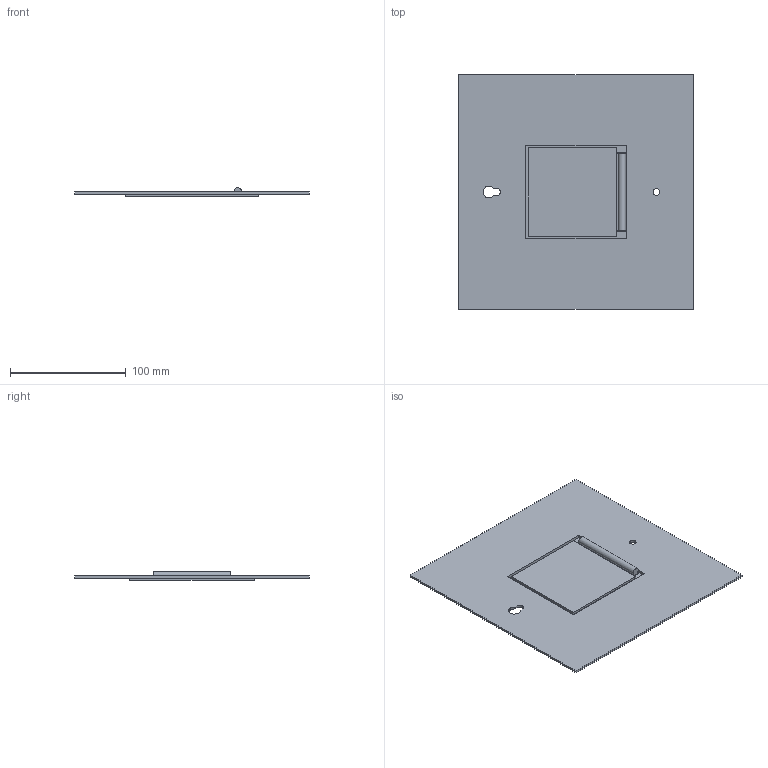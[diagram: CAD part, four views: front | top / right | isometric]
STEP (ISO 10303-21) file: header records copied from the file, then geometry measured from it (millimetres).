
FILE_DESCRIPTION((''),'1');
FILE_NAME('1','2001-04-17T',('jlue'),(''),'PRO/ENGINEER BY PARAMETRIC TECHNOLOGY CORPORATION, 9846','PRO/ENGINEER BY PARAMETRIC TECHNOLOGY CORPORATION, 9846','');
FILE_SCHEMA(('CONFIG_CONTROL_DESIGN'));
Length unit declared in the file: inch
Products named in the file (1): 1
Bounding box: 203.2 x 203.2 x 7.46 mm (x, y, z)
Surface area: 89142.6 mm2 (no closed solid volume)
Topology: 0 solids, 0 shells, 45 faces, 268 edges, 286 vertices
Faces by surface type: plane 38, cylinder 7
Entity records: 1346 total; most frequent: COMPOSITE_CURVE_SEGMENT 250, DIRECTION 247, CARTESIAN_POINT 188, TRIMMED_CURVE 143, VECTOR 129, LINE 129, AXIS2_PLACEMENT_3D 59, CURVE_BOUNDED_SURFACE 45
